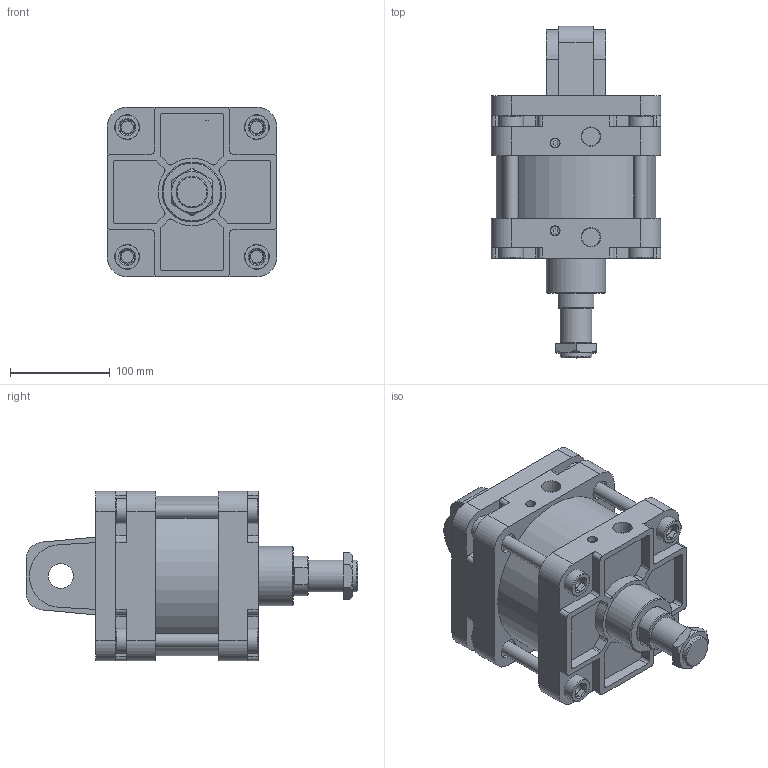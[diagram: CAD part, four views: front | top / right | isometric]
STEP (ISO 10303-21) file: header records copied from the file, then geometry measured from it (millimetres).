
FILE_DESCRIPTION(/* description */ ('Unknown'),/* implementation_level */ '2;1');
FILE_NAME(/* name */ 'WA150-0-CA',/* time_stamp */ '2026-07-17T17:00:28+08:00',/* author */ ('Unknown'),/* organization */ ('Unknown'),/* preprocessor_version */ 'ST-DEVELOPER v16.7',/* originating_system */ 'DEX',/* authorisation */ $);
FILE_SCHEMA (('CONFIG_CONTROL_DESIGN'));
Length unit declared in the file: millimetre
Products named in the file (8): WA150-0-CA; WA150_ｫe; WA150_ｫ瞎z\; WA150_鋁; WA150_¤ß¶b¬¡æ´»å¡žçµ„; WA150_CA; WA150_T碪墮姊濈祫; M32-2.0P-10_螺
Assembly tree (10 placements, depth 2):
  WA150-0-CA
    WA150_ｫe
    WA150_ｫ瞎z\
    WA150_鋁
    WA150_¤ß¶b¬¡æ´»å¡žçµ„
    WA150_CA
    WA150_T碪墮姊濈祫  x4
    M32-2.0P-10_螺
Bounding box: 170 x 333 x 170 mm (x, y, z)
Volume: 4088221.5 mm3; surface area: 502068.9 mm2
Topology: 10 solids, 10 shells, 427 faces, 1049 edges, 700 vertices
Faces by surface type: plane 240, cylinder 156, cone 23, torus 8
Full cylindrical faces by diameter (mm): 9 x2, 10 x2, 12.5 x8, 14 x4, 15 x4, 20 x16, 22.5 x4, 25 x9, 30 x1, 32 x1, 40 x2, 41 x1, 60 x1, 149.5 x1, 150 x3, 160 x1
Entity records: 11816 total; most frequent: CARTESIAN_POINT 1779, DIRECTION 1716, ORIENTED_EDGE 1534, EDGE_CURVE 767, AXIS2_PLACEMENT_3D 638, VERTEX_POINT 537, EDGE_LOOP 444, FACE_BOUND 444
